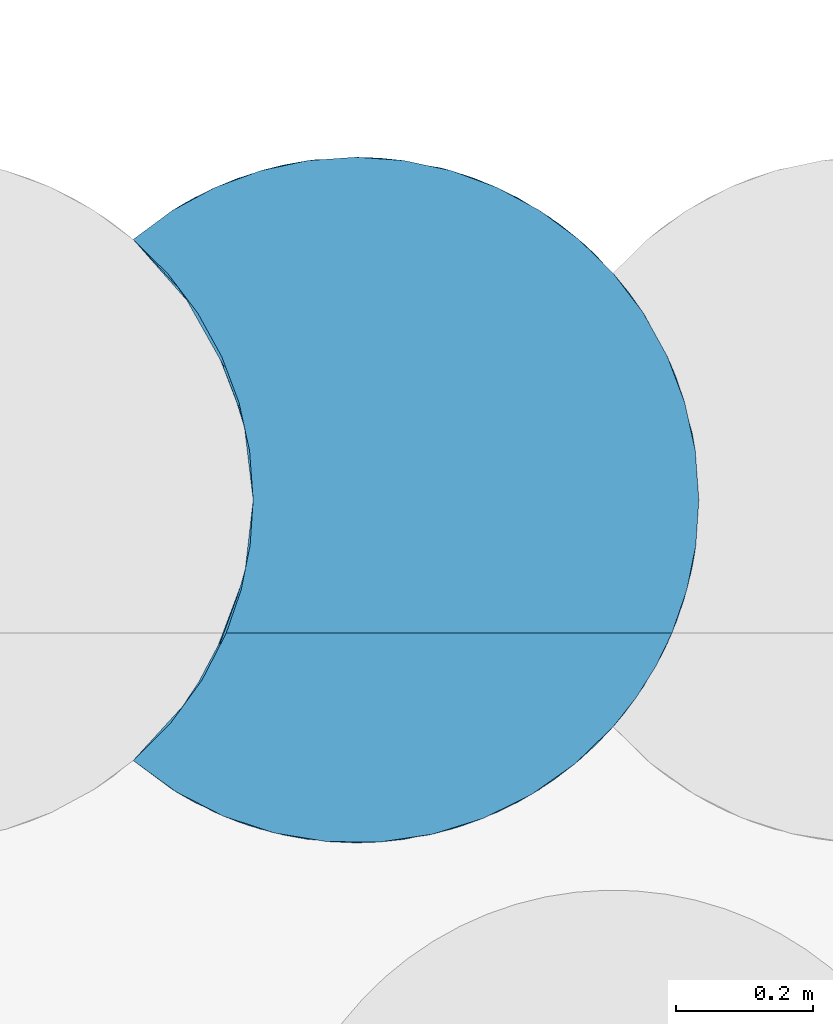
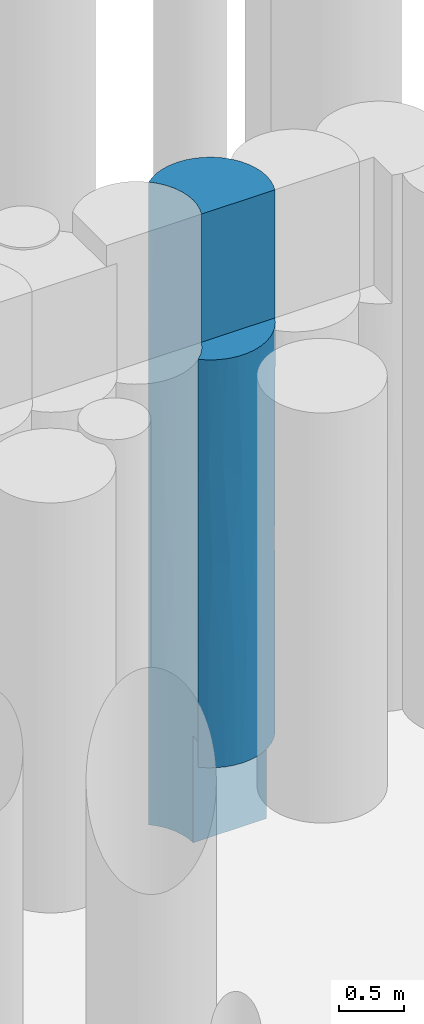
# One storey, part 96 of 104: 1 pile.
"""IFC2X3 building model written with IfcOpenShell, lengths in millimetres."""

from ifc_helpers import new_model, entity, si_unit, converted_unit, derived_unit, direction, frame, origin, place, context, subcontext, project, spatial, faceted_brep, source, transform, mapped, material, element, save


model = new_model("IFC2X3")

# Units and contexts
model_context = context("Model", 3, precision=0.01, world=origin(), true_north=direction((6.12303176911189e-17, 1.0)))
body_context = subcontext(model_context, "Body", "Model", "MODEL_VIEW")
ifc_project = project(units=[si_unit("LENGTHUNIT", "METRE", prefix="MILLI"), si_unit("AREAUNIT", "SQUARE_METRE", prefix="MILLI"), si_unit("VOLUMEUNIT", "CUBIC_METRE"), converted_unit("PLANEANGLEUNIT", "DEGREE", entity("IfcRatioMeasure", 0.0174532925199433), si_unit("PLANEANGLEUNIT", "RADIAN"), dimensions=[0, 0, 0, 0, 0, 0, 0]), si_unit("MASSUNIT", "GRAM", prefix="KILO"), derived_unit("MASSDENSITYUNIT", [(si_unit("MASSUNIT", "GRAM", prefix="KILO"), 1), (si_unit("LENGTHUNIT", "METRE"), -3)]), derived_unit("MOMENTOFINERTIAUNIT", [(si_unit("LENGTHUNIT", "METRE"), 4)]), si_unit("TIMEUNIT", "SECOND"), si_unit("FREQUENCYUNIT", "HERTZ"), si_unit("THERMODYNAMICTEMPERATUREUNIT", "DEGREE_CELSIUS"), derived_unit("THERMALTRANSMITTANCEUNIT", [(si_unit("MASSUNIT", "GRAM", prefix="KILO"), 1), (si_unit("THERMODYNAMICTEMPERATUREUNIT", "KELVIN"), -1), (si_unit("TIMEUNIT", "SECOND"), -3)]), derived_unit("VOLUMETRICFLOWRATEUNIT", [(si_unit("LENGTHUNIT", "METRE"), 3), (si_unit("TIMEUNIT", "SECOND"), -1)]), si_unit("ELECTRICCURRENTUNIT", "AMPERE"), si_unit("ELECTRICVOLTAGEUNIT", "VOLT"), si_unit("POWERUNIT", "WATT"), si_unit("FORCEUNIT", "NEWTON", prefix="KILO"), si_unit("ILLUMINANCEUNIT", "LUX"), si_unit("LUMINOUSFLUXUNIT", "LUMEN"), si_unit("LUMINOUSINTENSITYUNIT", "CANDELA"), derived_unit("USERDEFINED", [(si_unit("MASSUNIT", "GRAM", prefix="KILO"), -1), (si_unit("LENGTHUNIT", "METRE"), -2), (si_unit("TIMEUNIT", "SECOND"), 3), (si_unit("LUMINOUSFLUXUNIT", "LUMEN"), 1)]), derived_unit("LINEARVELOCITYUNIT", [(si_unit("LENGTHUNIT", "METRE"), 1), (si_unit("TIMEUNIT", "SECOND"), -1)]), si_unit("PRESSUREUNIT", "PASCAL"), derived_unit("USERDEFINED", [(si_unit("LENGTHUNIT", "METRE"), -2), (si_unit("MASSUNIT", "GRAM", prefix="KILO"), 1), (si_unit("TIMEUNIT", "SECOND"), -2)]), derived_unit("LINEARFORCEUNIT", [(si_unit("MASSUNIT", "GRAM", prefix="KILO"), 1), (si_unit("LENGTHUNIT", "METRE"), 1), (si_unit("TIMEUNIT", "SECOND"), -2), (si_unit("LENGTHUNIT", "METRE"), -1)]), derived_unit("PLANARFORCEUNIT", [(si_unit("MASSUNIT", "GRAM", prefix="KILO"), 1), (si_unit("LENGTHUNIT", "METRE"), 1), (si_unit("TIMEUNIT", "SECOND"), -2), (si_unit("LENGTHUNIT", "METRE"), -2)])], contexts=[model_context])

# Site, building, storey
site_placement = place(None, origin())
site = spatial("IfcSite", under=ifc_project, at=site_placement, Name="Theater aan de Parade", CompositionType="ELEMENT")
building_placement = place(site_placement, origin())
building = spatial("IfcBuilding", under=site, at=building_placement, Name="Theater aan de Parade", CompositionType="ELEMENT")
storey_placement = place(building_placement, frame((0.0, 0.0, -5520.0)))
storey = spatial("IfcBuildingStorey", under=building, at=storey_placement, Name="-2 kelder", CompositionType="ELEMENT", Elevation=-5520.0)

# Pile
ifc_material = material(Name="00_PBT_MAT_grout")
shared_shape = source(origin(), body_context, "Body", "Brep", [
    faceted_brep([(396.830256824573, 996.637691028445, 0.0), (465.900180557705, 981.797410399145, 0.0), (532.1893181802, 957.37048190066, 0.0), (594.374790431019, 923.844116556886, 0.0), (651.215417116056, 881.886900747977, 0.0), (701.564738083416, 832.343688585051, 0.0), (745.307679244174, 774.871492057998, 0.0), (780.306212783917, 711.705626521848, 0.0), (805.841279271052, 644.154909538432, 0.0), (821.379162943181, 573.629251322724, 0.0), (826.595272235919, 501.59522119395, 0.0), (176.595272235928, 501.595221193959, 0.0), (171.429644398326, 573.281650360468, 0.0), (156.039495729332, 643.486857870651, 0.0), (130.742825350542, 710.760227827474, 0.0), (96.0623260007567, 773.711723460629, 0.0), (52.7145838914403, 831.040608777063, 0.0), (1.5952722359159, 881.562325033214, 0.0), (58.4028776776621, 923.581997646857, 0.0), (120.560160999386, 957.171266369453, 0.0), (186.830455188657, 981.663753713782, 0.0), (255.889122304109, 996.570614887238, 0.0), (326.35781794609, 1001.59516480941, 0.0), (794.29489929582, 678.391880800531, 881.454775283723), (499.476707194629, 970.756184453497, 5046.4799495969), (623.537087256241, 903.870697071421, 5046.47791071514), (563.874930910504, 941.706983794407, 4252.02052650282), (826.595272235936, 501.59522119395, 1000.0), (826.595272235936, 501.595221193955, 6020.0), (826.595272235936, 501.595221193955, 4458.46227243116), (821.379162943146, 573.629251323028, 6020.0), (499.476707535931, 970.756184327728, 973.520048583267), (221.096169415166, 990.338445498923, 1064.02483777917), (623.5370877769, 903.87069668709, 973.522085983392), (92.0565164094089, 943.173721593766, 2819.81614801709), (153.262158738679, 970.589498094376, 4134.31747196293), (195.750758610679, 984.171342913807, 3050.70752249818), (724.484985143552, 804.388511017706, 1365.20796316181), (794.294898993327, 678.391881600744, 1823.38617998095), (66.5223080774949, 928.633923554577, 3748.41906682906), (794.294898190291, 678.391883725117, 4034.7177174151), (817.965948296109, 594.087700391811, 3429.93982466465), (785.437627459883, 700.249929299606, 2929.05194117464), (817.868941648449, 594.601574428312, 1352.42047613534), (826.595272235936, 501.59522119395, 1948.46227243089), (794.294898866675, 678.391881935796, 5055.131301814), (816.897283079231, 599.594905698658, 4544.92452051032), (116.339283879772, 955.238714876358, 1017.41940533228), (396.830256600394, 996.637691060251, 6020.0), (361.681703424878, 1000.36264429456, 4532.52886191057), (326.35781784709, 1001.59516480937, 6020.0), (724.484984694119, 804.388511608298, 4610.82728540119), (701.585564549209, 832.325142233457, 6020.0), (745.307679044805, 774.871492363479, 6020.0), (262.692091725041, 997.494791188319, 4024.55046156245), (805.84127924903, 644.154909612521, 6020.0), (780.306212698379, 711.705626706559, 6020.0), (221.096169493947, 990.338445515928, 4993.20810143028), (186.830455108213, 981.663753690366, 6020.0), (255.889122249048, 996.570614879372, 6020.0), (677.277153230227, 857.996986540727, 3010.0), (657.697936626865, 876.256435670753, 1966.59866160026), (609.534857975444, 913.839312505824, 2649.75210213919), (267.80087705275, 998.126407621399, 2175.94813502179), (153.262158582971, 970.589498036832, 1967.0975745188), (563.874931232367, 941.70698362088, 1767.97946893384), (461.216971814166, 983.131302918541, 1938.64206913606), (533.069666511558, 956.972344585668, 3010.0), (594.374789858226, 923.844116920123, 6020.0), (651.215416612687, 881.886901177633, 6020.0), (817.644013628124, 595.781916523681, 2422.69338771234), (361.681703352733, 1000.36264429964, 1487.4711360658), (1.59527223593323, 881.562325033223, 1561.53483428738), (1.5952722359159, 881.562325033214, 6020.0), (58.4028775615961, 923.581997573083, 6020.0), (1.59527223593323, 881.562325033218, 4571.53725968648), (722.986619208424, 806.347415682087, 2309.73731379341), (80.3198579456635, 936.737060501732, 4622.30276071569), (465.900180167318, 981.797410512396, 6020.0), (532.189317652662, 957.370482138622, 6020.0), (747.641257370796, 771.262198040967, 3648.17400408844), (826.595272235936, 501.595221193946, 3510.0), (826.595272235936, 501.59522119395, 2896.92454486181), (68.2480061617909, 929.68013112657, 1988.56690563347), (1.5952722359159, 881.562325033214, 3123.07451937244), (120.560160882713, 957.171266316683, 6020.0), (657.129266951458, 876.758223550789, 4059.10029731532), (461.216971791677, 983.13130292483, 4081.35792981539), (361.681702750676, 1000.36264434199, 3010.0), (449.308708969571, 986.302774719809, 2779.5068877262), (826.595272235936, 501.59522119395, 2561.53770593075), (186.837702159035, 21.5245788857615, 1000.0), (153.268167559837, 32.5987235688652, 2032.59142220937), (120.564956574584, 46.0170072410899, 1000.0), (221.104578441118, 12.850181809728, 2898.39967021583), (322.828137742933, 1.60941269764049, 3661.51694774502), (169.944562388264, 26.7683526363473, 3830.61507541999), (255.894062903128, 6.61912177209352, 1977.93394294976), (255.898681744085, 6.61846204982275, 1000.0), (582.353142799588, 71.9582678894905, 4820.0), (476.073285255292, 24.4617769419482, 3845.19545786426), (614.964633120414, 93.1308877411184, 3556.66916704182), (396.843237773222, 6.5545932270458, 1000.0), (361.693994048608, 2.82866284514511, 2031.82426425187), (326.369347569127, 1.59527223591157, 1000.0), (563.88845071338, 61.4907478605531, 2365.63708252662), (431.641070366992, 12.7543674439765, 2896.74057025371), (465.920802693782, 21.399014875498, 1976.1993060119), (465.913956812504, 21.397028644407, 1000.0), (92.4509425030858, 59.8074521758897, 2910.0), (66.4400108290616, 74.6066499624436, 2065.36023488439), (283.988214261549, 3.4138901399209, 4820.0), (1.5952722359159, 121.6281173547, 2561.53086613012), (1.59527223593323, 121.6281173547, 3258.4566771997), (532.203149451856, 45.8261998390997, 1000.0), (594.38791584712, 79.3546499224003, 1000.0), (746.177552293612, 229.656422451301, 2003.37492918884), (718.918436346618, 191.623391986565, 2910.0), (677.287872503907, 145.204003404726, 2013.40517873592), (1.5952722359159, 121.6281173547, 1000.0), (58.4052717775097, 79.6069231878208, 1000.0), (822.192599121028, 435.388804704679, 6020.0), (818.019014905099, 409.385107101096, 4958.41962745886), (651.227126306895, 121.313537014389, 1000.0), (133.521826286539, 40.3765697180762, 4820.0), (207.314596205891, 16.0315072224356, 4820.0), (1.5952722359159, 121.6281173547, 4820.0), (69.51363577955, 72.749057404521, 3850.45987280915), (361.690841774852, 2.82844102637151, 4820.0), (809.062113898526, 370.348329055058, 6020.0), (787.435053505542, 307.619202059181, 4820.0), (438.545792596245, 14.2892793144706, 4820.0), (819.741621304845, 419.092624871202, 1963.44176244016), (64.3921895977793, 75.8610982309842, 4820.0), (701.59527223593, 170.876307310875, 1000.0), (512.696859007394, 37.5195814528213, 4820.0), (745.314943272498, 228.330080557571, 1000.0), (817.057946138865, 404.402806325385, 2922.07767762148), (794.298352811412, 324.807697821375, 2323.87647932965), (780.310913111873, 291.494966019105, 1000.0), (805.843659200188, 359.043533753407, 1000.0), (341.808888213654, 1.82672890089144, 2845.73509814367), (718.918436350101, 191.62339199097, 3881.15051967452), (645.832308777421, 116.773555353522, 4820.0), (776.272039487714, 282.984139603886, 3622.97896711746), (701.59527223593, 170.876307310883, 4820.0), (735.095179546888, 213.276255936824, 4820.0), (763.793272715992, 258.988732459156, 4820.0), (787.435053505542, 307.619202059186, 6020.0), (814.400354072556, 391.840029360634, 3984.23114693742), (821.379899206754, 429.566248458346, 1000.0), (1.5952722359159, 121.628117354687, 1780.75735451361), (130.742825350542, 710.760227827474, 6020.0), (156.039495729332, 643.486857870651, 6020.0), (171.429644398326, 573.281650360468, 6020.0), (176.595272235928, 501.59522119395, 6020.0), (172.19259912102, 435.388804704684, 6020.0), (159.062113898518, 370.348329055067, 6020.0), (137.435053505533, 307.619202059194, 6020.0), (52.7145838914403, 831.040608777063, 6020.0), (96.0623260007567, 773.711723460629, 6020.0), (94.2073963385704, 776.549969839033, 1023.36917203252), (144.601498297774, 677.578664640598, 1073.30166724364), (114.535156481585, 742.859926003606, 1981.21457501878), (144.601497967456, 677.57866551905, 4983.36099329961), (168.355548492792, 591.993399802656, 833.623522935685), (176.595272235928, 501.595221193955, 1000.0), (176.595272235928, 501.595221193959, 5239.23113604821), (163.312339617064, 616.078828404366, 2198.18286885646), (114.535156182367, 742.859926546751, 4119.09841081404), (162.443921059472, 619.709955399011, 3872.65632374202), (176.595272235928, 501.595221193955, 1948.46227209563), (77.6973893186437, 800.120080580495, 2841.74752476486), (134.621974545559, 702.123373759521, 3050.15648617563), (57.7178530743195, 825.239436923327, 3778.45205103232), (70.6404851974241, 809.374964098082, 4685.62124860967), (64.8079279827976, 816.699860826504, 1743.27612365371), (169.303629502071, 586.674447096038, 4848.84671637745), (176.595272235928, 501.595221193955, 2896.92454419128), (176.595272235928, 501.595221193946, 3510.0), (176.595272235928, 501.595221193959, 4458.4622720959), (167.964395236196, 594.095950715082, 3040.00139886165), (176.595272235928, 501.595221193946, 2561.53770595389), (130.742825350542, 292.430214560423, 1000.0), (114.535157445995, 260.330518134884, 1980.78027978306), (164.997655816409, 394.529298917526, 1980.78027970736), (156.039495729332, 359.70358451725, 1000.0), (171.429644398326, 429.908792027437, 1000.0), (62.3756349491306, 183.51738206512, 2113.42859344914), (84.59965586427, 212.575458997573, 2910.0), (52.7145838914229, 172.149833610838, 1000.0), (96.0623260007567, 229.478718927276, 1000.0), (121.041197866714, 272.536671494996, 3789.16334396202), (144.601498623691, 325.611778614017, 2777.18427532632), (62.3277069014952, 183.459261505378, 3833.65681762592), (163.727296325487, 388.890336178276, 3984.23114692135), (169.435956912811, 417.285912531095, 3035.76885284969), (101.981480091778, 238.828073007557, 4820.0), (137.435053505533, 307.61920205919, 4820.0), (167.990081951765, 409.231045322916, 4951.12722633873), (56.3370563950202, 176.331978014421, 4820.0)], [[[0, 1, 2, 3, 4, 5, 6, 7, 8, 9, 10, 11, 12, 13, 14, 15, 16, 17, 18, 19, 20, 21, 22]], [[7, 23, 8]], [[24, 25, 26]], [[10, 9, 27]], [[28, 29, 30]], [[2, 31, 3]], [[23, 9, 8]], [[20, 32, 21]], [[33, 4, 3]], [[34, 35, 36]], [[23, 37, 38]], [[34, 39, 35]], [[33, 3, 31]], [[40, 41, 42]], [[27, 43, 44]], [[6, 5, 37]], [[43, 9, 23]], [[40, 45, 46]], [[20, 47, 32]], [[48, 49, 50]], [[51, 52, 53]], [[35, 54, 36]], [[55, 45, 56]], [[57, 58, 59]], [[53, 45, 51]], [[60, 61, 62]], [[6, 37, 23]], [[56, 45, 53]], [[63, 64, 36]], [[25, 52, 51]], [[65, 66, 67]], [[25, 68, 69]], [[31, 2, 1]], [[65, 61, 33]], [[54, 57, 49]], [[33, 31, 65]], [[70, 43, 38]], [[71, 0, 22]], [[45, 55, 30]], [[18, 17, 72]], [[73, 74, 75]], [[5, 4, 33]], [[46, 30, 29]], [[22, 32, 71]], [[63, 32, 64]], [[64, 32, 47]], [[47, 20, 19]], [[37, 61, 76]], [[50, 57, 59]], [[77, 35, 39]], [[22, 21, 32]], [[25, 24, 68]], [[48, 78, 24]], [[79, 68, 24]], [[79, 24, 78]], [[31, 66, 65]], [[80, 40, 42]], [[35, 77, 57]], [[49, 57, 50]], [[72, 47, 18]], [[41, 29, 81, 82]], [[83, 84, 34]], [[85, 77, 74]], [[57, 85, 58]], [[57, 54, 35]], [[25, 86, 26]], [[0, 71, 31]], [[51, 45, 40]], [[24, 87, 49]], [[67, 62, 65]], [[5, 33, 37]], [[0, 31, 1]], [[66, 31, 71]], [[52, 25, 69]], [[86, 25, 51]], [[87, 24, 26]], [[48, 24, 49]], [[23, 7, 6]], [[43, 23, 38]], [[76, 61, 60]], [[37, 33, 61]], [[80, 86, 51]], [[86, 60, 62]], [[71, 88, 66]], [[49, 87, 88]], [[89, 67, 66]], [[26, 86, 62]], [[26, 67, 87]], [[87, 67, 89]], [[44, 43, 70]], [[9, 43, 27]], [[70, 82, 90, 44]], [[42, 70, 38]], [[41, 82, 70]], [[76, 38, 37]], [[40, 80, 51]], [[42, 41, 70]], [[41, 40, 46]], [[49, 88, 54]], [[71, 63, 88]], [[88, 36, 54]], [[34, 36, 64]], [[88, 63, 36]], [[32, 63, 71]], [[18, 47, 19]], [[83, 47, 72]], [[76, 80, 42]], [[86, 80, 60]], [[83, 34, 64]], [[34, 84, 39]], [[84, 75, 39]], [[77, 39, 75]], [[74, 77, 75]], [[57, 77, 85]], [[30, 46, 45]], [[41, 46, 29]], [[80, 76, 60]], [[38, 76, 42]], [[65, 62, 61]], [[62, 67, 26]], [[47, 83, 64]], [[84, 83, 72]], [[66, 88, 89]], [[87, 89, 88]], [[91, 92, 93]], [[94, 95, 96]], [[97, 91, 98]], [[99, 100, 101]], [[102, 103, 104]], [[105, 100, 106]], [[103, 102, 107]], [[94, 92, 97]], [[107, 102, 108]], [[92, 109, 110]], [[95, 111, 96]], [[112, 109, 113]], [[92, 94, 109]], [[114, 115, 105]], [[114, 105, 107]], [[109, 94, 96]], [[116, 117, 118]], [[119, 120, 110]], [[101, 105, 118]], [[28, 121, 122]], [[118, 115, 123]], [[124, 96, 125]], [[126, 113, 127]], [[111, 95, 128]], [[104, 103, 97]], [[109, 127, 113]], [[96, 111, 125]], [[129, 130, 122]], [[100, 131, 128]], [[132, 27, 44, 90]], [[105, 101, 100]], [[127, 124, 133]], [[134, 118, 123]], [[101, 118, 117]], [[135, 131, 100]], [[106, 103, 107]], [[116, 134, 136]], [[115, 118, 105]], [[137, 138, 132]], [[110, 109, 112]], [[138, 139, 140]], [[106, 141, 103]], [[142, 143, 101]], [[138, 140, 132]], [[139, 138, 116]], [[127, 96, 124]], [[95, 106, 100]], [[117, 138, 144]], [[97, 103, 141]], [[99, 135, 100]], [[99, 101, 143]], [[145, 142, 146]], [[147, 142, 144]], [[134, 116, 118]], [[144, 130, 147]], [[148, 130, 129]], [[130, 144, 149]], [[149, 81, 29]], [[143, 142, 145]], [[137, 81, 149]], [[149, 122, 130]], [[132, 140, 150]], [[142, 147, 146]], [[93, 92, 110]], [[144, 142, 117]], [[100, 128, 95]], [[141, 106, 95]], [[142, 101, 117]], [[149, 29, 122]], [[137, 144, 138]], [[139, 116, 136]], [[138, 117, 116]], [[96, 127, 109]], [[126, 127, 133]], [[114, 107, 108]], [[105, 106, 107]], [[91, 97, 92]], [[104, 97, 98]], [[28, 122, 29]], [[129, 122, 121]], [[110, 112, 151, 119]], [[93, 110, 120]], [[27, 132, 150]], [[137, 132, 90]], [[137, 90, 82, 81]], [[144, 137, 149]], [[95, 94, 141]], [[97, 141, 94]], [[152, 153, 154, 155, 156, 157, 158, 148, 129, 121, 28, 30, 55, 56, 53, 52, 69, 68, 79, 78, 48, 50, 59, 58, 85, 74, 73, 159, 160]], [[161, 162, 163]], [[153, 152, 164]], [[13, 165, 162]], [[166, 12, 11]], [[167, 155, 154]], [[163, 162, 168]], [[16, 161, 72]], [[162, 161, 14]], [[14, 13, 162]], [[164, 169, 170]], [[171, 168, 165]], [[161, 15, 14]], [[166, 165, 12]], [[72, 17, 16]], [[75, 159, 73]], [[169, 172, 173]], [[174, 169, 175]], [[172, 84, 176]], [[169, 174, 172]], [[170, 169, 173]], [[159, 175, 160]], [[164, 170, 177]], [[153, 177, 154]], [[164, 152, 160]], [[170, 178, 179, 180]], [[175, 169, 164]], [[168, 178, 181]], [[167, 154, 177]], [[173, 163, 168]], [[165, 166, 171]], [[181, 170, 173]], [[163, 173, 172]], [[176, 163, 172]], [[174, 84, 172]], [[174, 75, 84]], [[75, 174, 175]], [[75, 175, 159]], [[160, 175, 164]], [[15, 161, 16]], [[161, 163, 176]], [[176, 72, 161]], [[84, 72, 176]], [[12, 165, 13]], [[162, 165, 168]], [[180, 167, 177]], [[180, 177, 170]], [[153, 164, 177]], [[168, 181, 173]], [[181, 178, 170]], [[168, 171, 182, 178]], [[183, 184, 185, 186]], [[187, 185, 166]], [[188, 189, 184]], [[185, 187, 186]], [[190, 188, 191]], [[192, 193, 189]], [[194, 113, 126]], [[180, 179, 195]], [[113, 194, 189]], [[184, 189, 193]], [[189, 112, 113]], [[182, 185, 196]], [[184, 183, 191]], [[196, 179, 178, 182]], [[197, 198, 192]], [[188, 184, 191]], [[198, 199, 195]], [[199, 198, 157]], [[157, 198, 158]], [[185, 182, 171, 166]], [[195, 199, 180]], [[185, 184, 193]], [[199, 156, 155]], [[151, 190, 119]], [[189, 194, 192]], [[112, 188, 151]], [[194, 200, 197]], [[195, 196, 193]], [[195, 192, 198]], [[192, 195, 193]], [[179, 196, 195]], [[193, 196, 185]], [[192, 194, 197]], [[200, 194, 126]], [[199, 155, 167, 180]], [[156, 199, 157]], [[189, 188, 112]], [[151, 188, 190]], [[134, 123, 115, 114, 108, 102, 104, 98, 91, 93, 120, 119, 190, 191, 183, 186, 187, 166, 27, 150, 140, 139, 136]], [[27, 166, 11, 10]], [[133, 124, 125, 111, 128, 131, 135, 99, 143, 145, 146, 147, 130, 198, 197, 200, 126]], [[158, 198, 130, 148]]]),
])
pile_placement = place(storey_placement, frame((84573.4047277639, 20202.3807979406, -3840.0)))
element("IfcPile", 1, at=pile_placement, inside=storey, material=ifc_material, Name="17_PBT_SFO_grondkering_rond:Ø1000 (grondkering)", ObjectType="17_PBT_SFO_grondkering_rond:Ø1000 (grondkering)", PredefinedType="NOTDEFINED", context=body_context, shape_type="MappedRepresentation", body=[
    mapped(shared_shape, transform((0.0, 0.0, 0.0), scale=1.0)),
])

save(model, "model.ifc")
